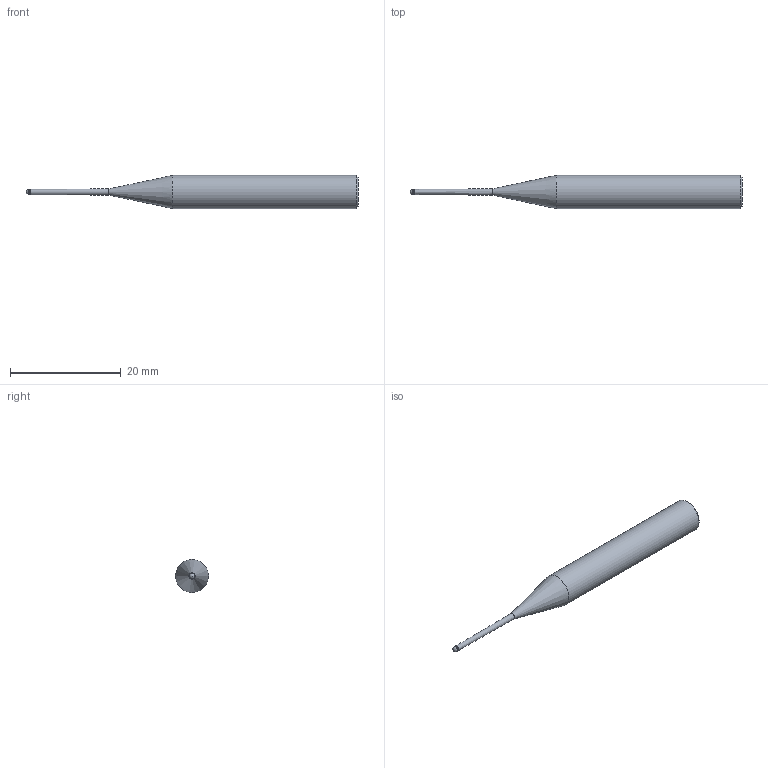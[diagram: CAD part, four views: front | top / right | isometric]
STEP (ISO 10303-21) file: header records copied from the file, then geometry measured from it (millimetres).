
FILE_DESCRIPTION(/* description */ (''),/* implementation_level */ '2;1');
FILE_NAME(/* name */ 'HGXPB2010-15-T0.4 0660.stp',/* time_stamp */ '2026-01-22T08:57:37+08:00',/* author */ (''),/* organization */ (''),/* preprocessor_version */ 'ST-DEVELOPER v16',/* originating_system */ 'SIEMENS PLM Software NX 10.0',/* authorisation */ '');
FILE_SCHEMA (('CONFIG_CONTROL_DESIGN'));
Length unit declared in the file: millimetre
Products named in the file (1): HGXPB2010-15-T0.4 0660_x_t
Bounding box: 60 x 6 x 6 mm (x, y, z)
Volume: 1093.7 mm3; surface area: 838.3 mm2
Topology: 1 solids, 1 shells, 9 faces, 19 edges, 12 vertices
Faces by surface type: cylinder 3, cone 3, plane 2, sphere 1
Full cylindrical faces by diameter (mm): 0.95 x1, 1 x1, 6 x1
Entity records: 264 total; most frequent: CARTESIAN_POINT 35, DIRECTION 34, AXIS2_PLACEMENT_3D 17, EDGE_LOOP 16, ORIENTED_EDGE 16, FACE_BOUND 14, ADVANCED_FACE 9, VERTEX_POINT 8
